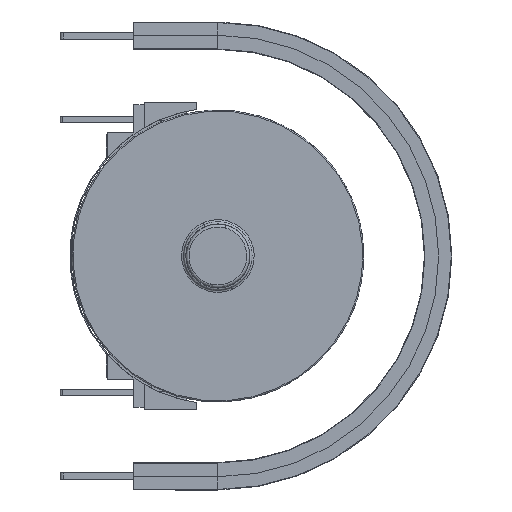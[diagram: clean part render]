
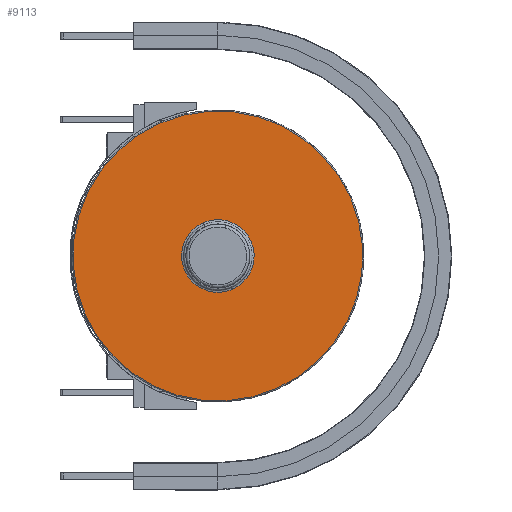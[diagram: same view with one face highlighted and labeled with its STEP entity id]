
A CAD part, front view. The second image highlights one B-rep face of the part: STEP entity #9113.
In plain terms, the highlighted planar face has unit normal (0, -1, 0) as drawn and (0, 0, 1) by its records, which use the part's own axes.
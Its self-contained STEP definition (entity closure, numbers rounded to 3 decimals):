
#587 = CIRCLE ( 'NONE', #592, 137.8 ) ;
#592 = AXIS2_PLACEMENT_3D ( 'NONE', #2433, #2434, #2435 ) ;
#2433 = CARTESIAN_POINT ( 'NONE',  ( 895.8, 0., 21.9 ) ) ;
#2434 = DIRECTION ( 'NONE',  ( 0., 0., 1. ) ) ;
#2435 = DIRECTION ( 'NONE',  ( 0., 1., 0. ) ) ;
#6683 = CARTESIAN_POINT ( 'NONE',  ( 895.8, 137.8, 21.9 ) ) ;
#6708 = CARTESIAN_POINT ( 'NONE',  ( 861.3, 0., 21.9 ) ) ;
#6709 = CARTESIAN_POINT ( 'NONE',  ( 895.8, -137.8, 21.9 ) ) ;
#6727 = CARTESIAN_POINT ( 'NONE',  ( 930.3, 0., 21.9 ) ) ;
#6822 = CARTESIAN_POINT ( 'NONE',  ( 895.8, 0., 21.9 ) ) ;
#6823 = DIRECTION ( 'NONE',  ( 0., 0., 1. ) ) ;
#6824 = DIRECTION ( 'NONE',  ( 0., 1., 0. ) ) ;
#7092 = CIRCLE ( 'NONE', #7156, 34.5 ) ;
#7118 = CIRCLE ( 'NONE', #7163, 34.5 ) ;
#7156 = AXIS2_PLACEMENT_3D ( 'NONE', #16066, #16067, #16068 ) ;
#7163 = AXIS2_PLACEMENT_3D ( 'NONE', #16682, #16683, #16684 ) ;
#9113 = ADVANCED_FACE ( 'NONE', ( #24051, #24055 ), #24057, .T. ) ;
#12521 = VERTEX_POINT ( 'NONE', #6683 ) ;
#12694 = VERTEX_POINT ( 'NONE', #6708 ) ;
#12704 = VERTEX_POINT ( 'NONE', #6709 ) ;
#12788 = VERTEX_POINT ( 'NONE', #6727 ) ;
#14339 = EDGE_CURVE ( 'NONE', #12704, #12521, #27347, .T. ) ;
#14449 = EDGE_CURVE ( 'NONE', #12521, #12704, #587, .T. ) ;
#14970 = EDGE_LOOP ( 'NONE', ( #20565, #20558 ) ) ;
#15021 = EDGE_LOOP ( 'NONE', ( #20553, #20471 ) ) ;
#16066 = CARTESIAN_POINT ( 'NONE',  ( 895.8, 0., 21.9 ) ) ;
#16067 = DIRECTION ( 'NONE',  ( 0., 0., -1. ) ) ;
#16068 = DIRECTION ( 'NONE',  ( -1., 0., 0. ) ) ;
#16682 = CARTESIAN_POINT ( 'NONE',  ( 895.8, 0., 21.9 ) ) ;
#16683 = DIRECTION ( 'NONE',  ( 0., 0., -1. ) ) ;
#16684 = DIRECTION ( 'NONE',  ( -1., 0., 0. ) ) ;
#17013 = EDGE_CURVE ( 'NONE', #12788, #12694, #7092, .T. ) ;
#17071 = EDGE_CURVE ( 'NONE', #12694, #12788, #7118, .T. ) ;
#17720 = AXIS2_PLACEMENT_3D ( 'NONE', #24050, #24022, #24060 ) ;
#20471 = ORIENTED_EDGE ( 'NONE', *, *, #17013, .T. ) ;
#20553 = ORIENTED_EDGE ( 'NONE', *, *, #17071, .T. ) ;
#20558 = ORIENTED_EDGE ( 'NONE', *, *, #14339, .T. ) ;
#20565 = ORIENTED_EDGE ( 'NONE', *, *, #14449, .T. ) ;
#24022 = DIRECTION ( 'NONE',  ( 0., 0., 1. ) ) ;
#24050 = CARTESIAN_POINT ( 'NONE',  ( 981.95, 0., 21.9 ) ) ;
#24051 = FACE_OUTER_BOUND ( 'NONE', #14970, .T. ) ;
#24055 = FACE_BOUND ( 'NONE', #15021, .T. ) ;
#24057 = PLANE ( 'NONE',  #17720 ) ;
#24060 = DIRECTION ( 'NONE',  ( 1., 0., 0. ) ) ;
#27347 = CIRCLE ( 'NONE', #27356, 137.8 ) ;
#27356 = AXIS2_PLACEMENT_3D ( 'NONE', #6822, #6823, #6824 ) ;
